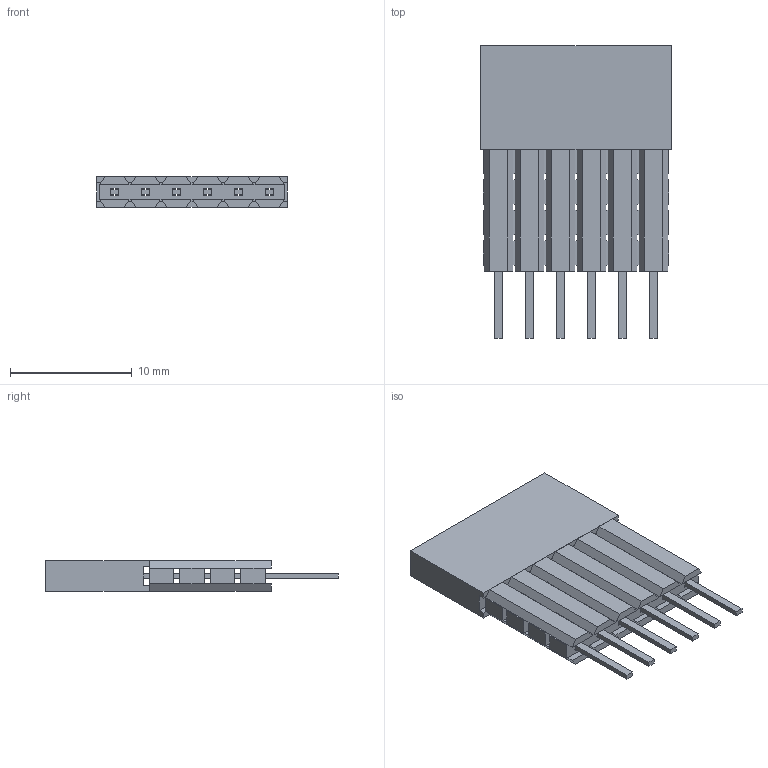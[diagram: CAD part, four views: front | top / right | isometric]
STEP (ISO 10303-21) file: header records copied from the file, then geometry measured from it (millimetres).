
FILE_DESCRIPTION(/* description */ (''),/* implementation_level */ '2;1');
FILE_NAME(/* name */ 'PM254-1-06-Z-C18.5-XX-4LP(L24.0)(2.54 单排 排母 直针 加4层塑胶-HCTL).stp',/* time_stamp */ '2026-10-24T15:02:38+08:00',/* author */ (''),/* organization */ (''),/* preprocessor_version */ 'ST-DEVELOPER v16',/* originating_system */ 'SIEMENS PLM Software NX 10.0',/* authorisation */ '');
FILE_SCHEMA (('AUTOMOTIVE_DESIGN { 1 0 10303 214 3 1 1 1 }'));
Length unit declared in the file: millimetre
Products named in the file (1): PM254-1-N-Z-C18.5-XX-4LP_L24.0__2.54 单排 排母 
直针 加4层塑胶-HCTL__step
Bounding box: 15.64 x 24 x 2.5 mm (x, y, z)
Volume: 607.1 mm3; surface area: 1475.7 mm2
Topology: 2 solids, 2 shells, 358 faces, 1080 edges, 648 vertices
Faces by surface type: plane 358
Entity records: 11881 total; most frequent: ORIENTED_EDGE 2160, CARTESIAN_POINT 2087, DIRECTION 1798, EDGE_CURVE 1080, LINE 1080, VECTOR 1080, VERTEX_POINT 648, EDGE_LOOP 418
